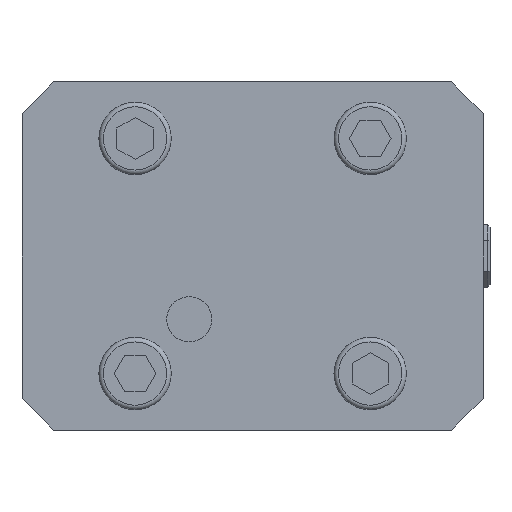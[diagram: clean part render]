
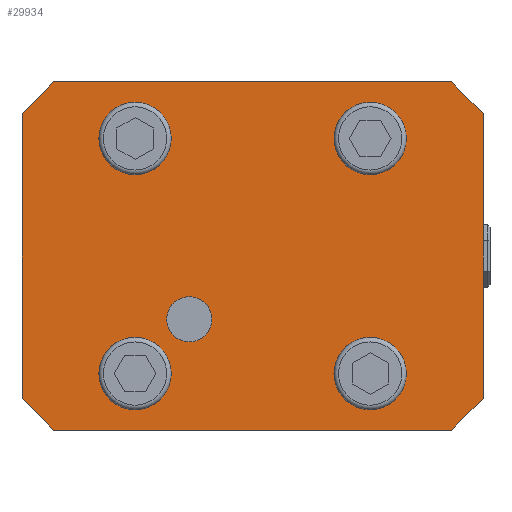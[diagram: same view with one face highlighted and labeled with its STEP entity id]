
A CAD part, front view. The second image highlights one B-rep face of the part: STEP entity #29934.
In plain terms, the highlighted planar face has unit normal (0, -1, 0).
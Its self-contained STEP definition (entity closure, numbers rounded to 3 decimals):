
#46 = CARTESIAN_POINT ( 'NONE',  ( -14., 0., -14. ) ) ;
#88 = DIRECTION ( 'NONE',  ( -0.707, 0., 0.707 ) ) ;
#614 = DIRECTION ( 'NONE',  ( 0., 0., -1. ) ) ;
#700 = EDGE_CURVE ( 'NONE', #11522, #11522, #11446, .T. ) ;
#945 = AXIS2_PLACEMENT_3D ( 'NONE', #17909, #25199, #35723 ) ;
#1188 = VERTEX_POINT ( 'NONE', #1437 ) ;
#1437 = CARTESIAN_POINT ( 'NONE',  ( -14., 0., -19. ) ) ;
#2070 = EDGE_CURVE ( 'NONE', #16831, #19515, #42698, .T. ) ;
#2165 = LINE ( 'NONE', #30749, #25403 ) ;
#2177 = EDGE_LOOP ( 'NONE', ( #6884 ) ) ;
#2434 = CARTESIAN_POINT ( 'NONE',  ( -44., 0., -38.5 ) ) ;
#2800 = CARTESIAN_POINT ( 'NONE',  ( 51., 0., -31.5 ) ) ;
#3383 = EDGE_CURVE ( 'NONE', #34697, #10857, #18459, .T. ) ;
#3417 = CARTESIAN_POINT ( 'NONE',  ( 51., 0., 38.5 ) ) ;
#3519 = CARTESIAN_POINT ( 'NONE',  ( -51., 0., 31.5 ) ) ;
#3574 = CARTESIAN_POINT ( 'NONE',  ( -26., 0., 26. ) ) ;
#3992 = VECTOR ( 'NONE', #41972, 1000. ) ;
#4251 = VECTOR ( 'NONE', #614, 1000. ) ;
#4327 = LINE ( 'NONE', #3417, #5657 ) ;
#4385 = CARTESIAN_POINT ( 'NONE',  ( -51., 0., -38.5 ) ) ;
#4789 = ORIENTED_EDGE ( 'NONE', *, *, #700, .F. ) ;
#5657 = VECTOR ( 'NONE', #7171, 1000. ) ;
#6207 = CARTESIAN_POINT ( 'NONE',  ( 44., 0., -38.5 ) ) ;
#6630 = ORIENTED_EDGE ( 'NONE', *, *, #3383, .T. ) ;
#6884 = ORIENTED_EDGE ( 'NONE', *, *, #13514, .F. ) ;
#7171 = DIRECTION ( 'NONE',  ( -1., 0., 0. ) ) ;
#7291 = AXIS2_PLACEMENT_3D ( 'NONE', #22617, #37631, #23317 ) ;
#7601 = CARTESIAN_POINT ( 'NONE',  ( 51., 0., 31.5 ) ) ;
#8759 = ORIENTED_EDGE ( 'NONE', *, *, #14319, .T. ) ;
#10011 = CARTESIAN_POINT ( 'NONE',  ( 51., 0., -38.5 ) ) ;
#10341 = EDGE_LOOP ( 'NONE', ( #35980 ) ) ;
#10598 = DIRECTION ( 'NONE',  ( 0., -1., 0. ) ) ;
#10826 = CARTESIAN_POINT ( 'NONE',  ( 20., 0., 26. ) ) ;
#10857 = VERTEX_POINT ( 'NONE', #30745 ) ;
#10884 = FACE_BOUND ( 'NONE', #10341, .T. ) ;
#11067 = DIRECTION ( 'NONE',  ( 1., 0., 0. ) ) ;
#11446 = CIRCLE ( 'NONE', #945, 6. ) ;
#11522 = VERTEX_POINT ( 'NONE', #10826 ) ;
#12298 = LINE ( 'NONE', #26616, #35693 ) ;
#12312 = ORIENTED_EDGE ( 'NONE', *, *, #21851, .T. ) ;
#12699 = EDGE_CURVE ( 'NONE', #36399, #36399, #38521, .T. ) ;
#12925 = EDGE_LOOP ( 'NONE', ( #27219 ) ) ;
#13514 = EDGE_CURVE ( 'NONE', #1188, #1188, #43115, .T. ) ;
#13550 = LINE ( 'NONE', #10011, #3992 ) ;
#14319 = EDGE_CURVE ( 'NONE', #19066, #34697, #12298, .T. ) ;
#14645 = PLANE ( 'NONE',  #7291 ) ;
#15028 = CARTESIAN_POINT ( 'NONE',  ( -20., 0., -26. ) ) ;
#16461 = CARTESIAN_POINT ( 'NONE',  ( -26., 0., 20. ) ) ;
#16831 = VERTEX_POINT ( 'NONE', #6207 ) ;
#17909 = CARTESIAN_POINT ( 'NONE',  ( 26., 0., 26. ) ) ;
#17919 = EDGE_CURVE ( 'NONE', #19788, #19515, #23813, .T. ) ;
#18260 = CARTESIAN_POINT ( 'NONE',  ( 51., 0., -31.5 ) ) ;
#18459 = LINE ( 'NONE', #4385, #4251 ) ;
#18578 = CARTESIAN_POINT ( 'NONE',  ( -44., 0., 38.5 ) ) ;
#19066 = VERTEX_POINT ( 'NONE', #18578 ) ;
#19515 = VERTEX_POINT ( 'NONE', #2800 ) ;
#19788 = VERTEX_POINT ( 'NONE', #29340 ) ;
#21472 = FACE_BOUND ( 'NONE', #12925, .T. ) ;
#21851 = EDGE_CURVE ( 'NONE', #10857, #39226, #2165, .T. ) ;
#21925 = FACE_BOUND ( 'NONE', #28579, .T. ) ;
#22135 = ORIENTED_EDGE ( 'NONE', *, *, #45750, .F. ) ;
#22168 = ORIENTED_EDGE ( 'NONE', *, *, #45535, .F. ) ;
#22617 = CARTESIAN_POINT ( 'NONE',  ( 51., 0., -38.5 ) ) ;
#23317 = DIRECTION ( 'NONE',  ( 0., 0., 1. ) ) ;
#23813 = LINE ( 'NONE', #45120, #29112 ) ;
#24532 = EDGE_CURVE ( 'NONE', #30276, #30276, #40050, .T. ) ;
#25088 = EDGE_CURVE ( 'NONE', #45514, #19066, #4327, .T. ) ;
#25199 = DIRECTION ( 'NONE',  ( 0., -1., 0. ) ) ;
#25403 = VECTOR ( 'NONE', #44631, 1000. ) ;
#26563 = ORIENTED_EDGE ( 'NONE', *, *, #17919, .F. ) ;
#26616 = CARTESIAN_POINT ( 'NONE',  ( -44., 0., 38.5 ) ) ;
#27219 = ORIENTED_EDGE ( 'NONE', *, *, #24532, .F. ) ;
#27988 = CIRCLE ( 'NONE', #40735, 6. ) ;
#28485 = FACE_OUTER_BOUND ( 'NONE', #31619, .T. ) ;
#28579 = EDGE_LOOP ( 'NONE', ( #22168 ) ) ;
#29060 = DIRECTION ( 'NONE',  ( 0.707, 0., 0.707 ) ) ;
#29112 = VECTOR ( 'NONE', #37629, 1000. ) ;
#29340 = CARTESIAN_POINT ( 'NONE',  ( 51., 0., 31.5 ) ) ;
#29931 = EDGE_CURVE ( 'NONE', #19788, #45514, #46328, .T. ) ;
#29934 = ADVANCED_FACE ( 'NONE', ( #36464, #43273, #21472, #10884, #21925, #28485 ), #14645, .F. ) ;
#30276 = VERTEX_POINT ( 'NONE', #44614 ) ;
#30745 = CARTESIAN_POINT ( 'NONE',  ( -51., 0., -31.5 ) ) ;
#30749 = CARTESIAN_POINT ( 'NONE',  ( -44., 0., -38.5 ) ) ;
#31448 = DIRECTION ( 'NONE',  ( 0., 0., -1. ) ) ;
#31619 = EDGE_LOOP ( 'NONE', ( #34240, #8759, #6630, #12312, #22135, #43359, #26563, #36409 ) ) ;
#31953 = DIRECTION ( 'NONE',  ( 0., 0., -1. ) ) ;
#34240 = ORIENTED_EDGE ( 'NONE', *, *, #25088, .T. ) ;
#34697 = VERTEX_POINT ( 'NONE', #3519 ) ;
#34749 = DIRECTION ( 'NONE',  ( 0., -1., 0. ) ) ;
#34875 = DIRECTION ( 'NONE',  ( 0., 0., 1. ) ) ;
#35004 = VECTOR ( 'NONE', #88, 1000. ) ;
#35693 = VECTOR ( 'NONE', #38293, 1000. ) ;
#35723 = DIRECTION ( 'NONE',  ( -1., 0., 0. ) ) ;
#35980 = ORIENTED_EDGE ( 'NONE', *, *, #12699, .F. ) ;
#36399 = VERTEX_POINT ( 'NONE', #15028 ) ;
#36409 = ORIENTED_EDGE ( 'NONE', *, *, #29931, .T. ) ;
#36464 = FACE_BOUND ( 'NONE', #2177, .T. ) ;
#37629 = DIRECTION ( 'NONE',  ( 0., 0., -1. ) ) ;
#37631 = DIRECTION ( 'NONE',  ( 0., 1., 0. ) ) ;
#38293 = DIRECTION ( 'NONE',  ( -0.707, 0., -0.707 ) ) ;
#38426 = DIRECTION ( 'NONE',  ( 0., -1., 0. ) ) ;
#38521 = CIRCLE ( 'NONE', #44493, 6. ) ;
#38622 = AXIS2_PLACEMENT_3D ( 'NONE', #46, #42347, #31953 ) ;
#39016 = CARTESIAN_POINT ( 'NONE',  ( -26., 0., -26. ) ) ;
#39226 = VERTEX_POINT ( 'NONE', #2434 ) ;
#40050 = CIRCLE ( 'NONE', #43782, 6. ) ;
#40735 = AXIS2_PLACEMENT_3D ( 'NONE', #3574, #34749, #31448 ) ;
#41972 = DIRECTION ( 'NONE',  ( -1., 0., 0. ) ) ;
#42347 = DIRECTION ( 'NONE',  ( 0., -1., 0. ) ) ;
#42353 = EDGE_LOOP ( 'NONE', ( #4789 ) ) ;
#42457 = VERTEX_POINT ( 'NONE', #16461 ) ;
#42698 = LINE ( 'NONE', #18260, #43769 ) ;
#43115 = CIRCLE ( 'NONE', #38622, 5. ) ;
#43273 = FACE_BOUND ( 'NONE', #42353, .T. ) ;
#43359 = ORIENTED_EDGE ( 'NONE', *, *, #2070, .T. ) ;
#43769 = VECTOR ( 'NONE', #29060, 1000. ) ;
#43782 = AXIS2_PLACEMENT_3D ( 'NONE', #45693, #38426, #34875 ) ;
#44493 = AXIS2_PLACEMENT_3D ( 'NONE', #39016, #10598, #11067 ) ;
#44614 = CARTESIAN_POINT ( 'NONE',  ( 26., 0., -20. ) ) ;
#44631 = DIRECTION ( 'NONE',  ( 0.707, 0., -0.707 ) ) ;
#45120 = CARTESIAN_POINT ( 'NONE',  ( 51., 0., -38.5 ) ) ;
#45514 = VERTEX_POINT ( 'NONE', #46016 ) ;
#45535 = EDGE_CURVE ( 'NONE', #42457, #42457, #27988, .T. ) ;
#45693 = CARTESIAN_POINT ( 'NONE',  ( 26., 0., -26. ) ) ;
#45750 = EDGE_CURVE ( 'NONE', #16831, #39226, #13550, .T. ) ;
#46016 = CARTESIAN_POINT ( 'NONE',  ( 44., 0., 38.5 ) ) ;
#46328 = LINE ( 'NONE', #7601, #35004 ) ;
